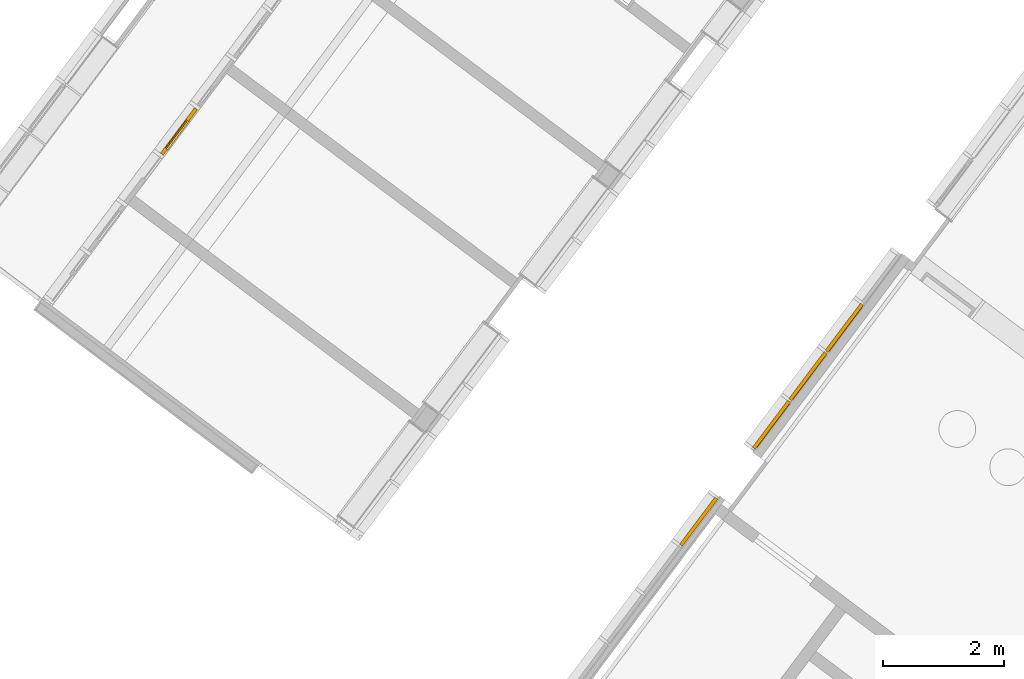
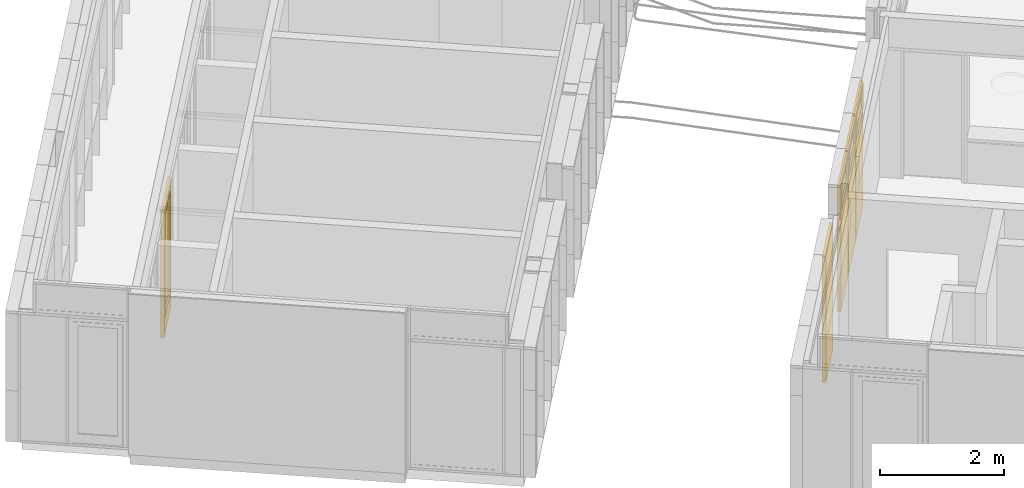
# One storey, part 159 of 243: 5 doors, 3 windows, 2 elements without a shape of their own.
"""IFC2X3 building model written with IfcOpenShell, lengths in metres."""

from ifc_helpers import new_model, entity, si_unit, converted_unit, derived_unit, direction, frame, origin, origin_2d_with_axis, place, context, subcontext, project, spatial, rectangle, extrude, faceted_brep, source, transform, mapped, material, material_list, type_object, type_shapes, element, aggregate, save


model = new_model("IFC2X3")

# Units and contexts
model_context = context("Model", 3, precision=1e-05, world=origin(), true_north=direction((6.123031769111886e-17, 1.0)))
body_context = subcontext(model_context, "Body", "Model", "MODEL_VIEW")
ifc_project = project(units=[si_unit("LENGTHUNIT", "METRE"), si_unit("AREAUNIT", "SQUARE_METRE"), si_unit("VOLUMEUNIT", "CUBIC_METRE"), converted_unit("PLANEANGLEUNIT", "DEGREE", entity("IfcRatioMeasure", 0.017453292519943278), si_unit("PLANEANGLEUNIT", "RADIAN"), dimensions=[0, 0, 0, 0, 0, 0, 0]), si_unit("MASSUNIT", "GRAM", prefix="KILO"), derived_unit("MASSDENSITYUNIT", [(si_unit("MASSUNIT", "GRAM", prefix="KILO"), 1), (si_unit("LENGTHUNIT", "METRE"), -3)]), derived_unit("IONCONCENTRATIONUNIT", [(si_unit("MASSUNIT", "GRAM", prefix="KILO"), 1), (si_unit("LENGTHUNIT", "METRE"), -3)]), derived_unit("MOMENTOFINERTIAUNIT", [(si_unit("LENGTHUNIT", "METRE"), 4)]), si_unit("TIMEUNIT", "SECOND"), si_unit("FREQUENCYUNIT", "HERTZ"), si_unit("THERMODYNAMICTEMPERATUREUNIT", "DEGREE_CELSIUS"), derived_unit("THERMALTRANSMITTANCEUNIT", [(si_unit("MASSUNIT", "GRAM", prefix="KILO"), 1), (si_unit("THERMODYNAMICTEMPERATUREUNIT", "KELVIN"), -1), (si_unit("TIMEUNIT", "SECOND"), -3)]), derived_unit("THERMALCONDUCTANCEUNIT", [(si_unit("MASSUNIT", "GRAM", prefix="KILO"), 1), (si_unit("THERMODYNAMICTEMPERATUREUNIT", "KELVIN"), -1), (si_unit("TIMEUNIT", "SECOND"), -3), (si_unit("LENGTHUNIT", "METRE"), 1)]), derived_unit("VOLUMETRICFLOWRATEUNIT", [(si_unit("LENGTHUNIT", "METRE"), 3), (si_unit("TIMEUNIT", "SECOND"), -1)]), derived_unit("MASSFLOWRATEUNIT", [(si_unit("MASSUNIT", "GRAM", prefix="KILO"), 1), (si_unit("TIMEUNIT", "SECOND"), -1)]), derived_unit("ROTATIONALFREQUENCYUNIT", [(si_unit("TIMEUNIT", "SECOND"), -1)]), si_unit("ELECTRICCURRENTUNIT", "AMPERE"), si_unit("ELECTRICVOLTAGEUNIT", "VOLT"), si_unit("POWERUNIT", "WATT"), si_unit("FORCEUNIT", "NEWTON", prefix="KILO"), si_unit("ILLUMINANCEUNIT", "LUX"), si_unit("LUMINOUSFLUXUNIT", "LUMEN"), si_unit("LUMINOUSINTENSITYUNIT", "CANDELA"), derived_unit("USERDEFINED", [(si_unit("MASSUNIT", "GRAM", prefix="KILO"), -1), (si_unit("LENGTHUNIT", "METRE"), -2), (si_unit("TIMEUNIT", "SECOND"), 3), (si_unit("LUMINOUSFLUXUNIT", "LUMEN"), 1)]), derived_unit("USERDEFINED", [(si_unit("MASSUNIT", "GRAM", prefix="KILO"), 1), (si_unit("TIMEUNIT", "SECOND"), -3), (si_unit("LENGTHUNIT", "METRE"), 3), (si_unit("ELECTRICCURRENTUNIT", "AMPERE"), -2)]), derived_unit("SOUNDPOWERUNIT", [(si_unit("MASSUNIT", "GRAM", prefix="KILO"), 1), (si_unit("TIMEUNIT", "SECOND"), -3), (si_unit("LENGTHUNIT", "METRE"), 2)]), derived_unit("SOUNDPRESSUREUNIT", [(si_unit("MASSUNIT", "GRAM", prefix="KILO"), 1), (si_unit("LENGTHUNIT", "METRE"), -1), (si_unit("TIMEUNIT", "SECOND"), -2)]), derived_unit("LINEARVELOCITYUNIT", [(si_unit("LENGTHUNIT", "METRE"), 1), (si_unit("TIMEUNIT", "SECOND"), -1)]), si_unit("PRESSUREUNIT", "PASCAL"), derived_unit("USERDEFINED", [(si_unit("MASSUNIT", "GRAM", prefix="KILO"), 1), (si_unit("LENGTHUNIT", "METRE"), -2), (si_unit("TIMEUNIT", "SECOND"), -2)]), derived_unit("LINEARFORCEUNIT", [(si_unit("MASSUNIT", "GRAM", prefix="KILO"), 1), (si_unit("TIMEUNIT", "SECOND"), -2)]), derived_unit("PLANARFORCEUNIT", [(si_unit("MASSUNIT", "GRAM", prefix="KILO"), 1), (si_unit("LENGTHUNIT", "METRE"), -1), (si_unit("TIMEUNIT", "SECOND"), -2)]), derived_unit("SPECIFICHEATCAPACITYUNIT", [(si_unit("THERMODYNAMICTEMPERATUREUNIT", "KELVIN"), -1), (si_unit("LENGTHUNIT", "METRE"), 2), (si_unit("TIMEUNIT", "SECOND"), -2)]), derived_unit("HEATINGVALUEUNIT", [(si_unit("LENGTHUNIT", "METRE"), 2), (si_unit("TIMEUNIT", "SECOND"), -2)]), derived_unit("VAPORPERMEABILITYUNIT", [(si_unit("LENGTHUNIT", "METRE"), -1), (si_unit("TIMEUNIT", "SECOND"), 1)]), derived_unit("DYNAMICVISCOSITYUNIT", [(si_unit("MASSUNIT", "GRAM", prefix="KILO"), 1), (si_unit("TIMEUNIT", "SECOND"), -1), (si_unit("LENGTHUNIT", "METRE"), -1)]), derived_unit("THERMALEXPANSIONCOEFFICIENTUNIT", [(si_unit("THERMODYNAMICTEMPERATUREUNIT", "KELVIN"), -1)]), derived_unit("MODULUSOFELASTICITYUNIT", [(si_unit("MASSUNIT", "GRAM", prefix="KILO"), 1), (si_unit("LENGTHUNIT", "METRE"), -1), (si_unit("TIMEUNIT", "SECOND"), -2)]), derived_unit("ISOTHERMALMOISTURECAPACITYUNIT", [(si_unit("LENGTHUNIT", "METRE"), 3), (si_unit("MASSUNIT", "GRAM", prefix="KILO"), -1)]), derived_unit("MOISTUREDIFFUSIVITYUNIT", [(si_unit("TIMEUNIT", "SECOND"), -1), (si_unit("LENGTHUNIT", "METRE"), 2)])], contexts=[model_context])

# Site, building, storey
site_placement = place(None, frame((0.0, 0.0, 235.0), z_axis=(0.0, 0.0, 1.0), x_axis=(-0.7996477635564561, 0.6004693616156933, 0.0)))
site = spatial("IfcSite", under=ifc_project, at=site_placement, Name="Default", CompositionType="ELEMENT")
building_placement = place(site_placement, origin())
building = spatial("IfcBuilding", under=site, at=building_placement, CompositionType="ELEMENT")
storey_placement = place(building_placement, origin())
storey = spatial("IfcBuildingStorey", under=building, at=storey_placement, Name="P0- Escola", CompositionType="ELEMENT", Elevation=0.0)

# Curtain wall, door
curtain_wall_type_1 = type_object("IfcCurtainWallType", Name="Muro cortina:MC- INT- a2", PredefinedType="NOTDEFINED")
curtain_wall_1_placement = place(storey_placement, origin())
curtain_wall_1 = element("IfcCurtainWall", 1, at=curtain_wall_1_placement, inside=storey, type_object=curtain_wall_type_1, Name="Muro cortina:MC- INT- a2", ObjectType="Muro cortina:MC- INT- a2")
ifc_material_1 = material(Name="_Fusta massisa- T1")
ifc_material_2 = material(Name="_Vidre")
ifc_material_list_1 = material_list([ifc_material_1, ifc_material_2])
door_style_1 = type_object("IfcDoorStyle", Name="MC- Fusta- conjunt porta:MC- Fusta- conjunt Porta aules", ConstructionType="NOTDEFINED", OperationType="NOTDEFINED", ParameterTakesPrecedence=False, Sizeable=False, material=ifc_material_list_1)
shared_shape_1 = source(origin(), body_context, "Body", "Brep", [
    faceted_brep([(0.24500000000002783, -0.024999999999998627, 2.3799999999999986), (0.24500000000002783, -0.024999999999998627, 0.3299999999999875), (0.24500000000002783, 0.0050000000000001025, 0.3299999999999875), (0.24500000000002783, 0.0050000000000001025, 2.3799999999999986), (-0.3700000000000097, -0.024999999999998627, 0.3299999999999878), (-0.3700000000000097, 0.0050000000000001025, 0.3299999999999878), (-0.37000000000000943, -0.024999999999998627, 2.3799999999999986), (-0.37000000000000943, 0.0050000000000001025, 2.3799999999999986), (0.23000000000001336, 0.0050000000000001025, 2.3650000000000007), (-0.35499999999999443, 0.0050000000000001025, 2.3650000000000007), (-0.35499999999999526, 0.0050000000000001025, 0.3449999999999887), (0.23000000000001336, 0.0050000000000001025, 0.34499999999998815), (0.23000000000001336, -0.024999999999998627, 2.3650000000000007), (0.23000000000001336, -0.024999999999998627, 0.34499999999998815), (-0.35499999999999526, -0.024999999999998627, 0.3449999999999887), (-0.35499999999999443, -0.024999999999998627, 2.3650000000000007)], [[[0, 1, 2, 3]], [[1, 4, 5, 2]], [[4, 6, 7, 5]], [[8, 9, 10, 11], [3, 2, 5, 7]], [[12, 13, 14, 15], [0, 6, 4, 1]], [[13, 12, 8, 11]], [[14, 13, 11, 10]], [[15, 14, 10, 9]], [[6, 0, 3, 7]], [[12, 15, 9, 8]]], outer=[[True], [True], [True], [False, True], [False, True], [True], [True], [True], [True], [True]]),
    faceted_brep([(0.43999999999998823, 0.03999999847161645, 0.0), (0.43999999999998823, 0.0099999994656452, 0.0), (0.4550000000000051, 0.0099999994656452, 0.0), (0.4550000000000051, -0.01999999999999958, 0.0), (-0.45499999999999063, -0.019999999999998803, 0.0), (-0.45499999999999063, 0.009999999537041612, 0.0), (-0.43999999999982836, 0.009999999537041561, 0.0), (-0.43999999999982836, 0.039999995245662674, 0.0), (0.45500000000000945, -0.01999999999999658, 2.4899999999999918), (-0.45499999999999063, -0.019999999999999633, 2.4899999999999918), (0.24500000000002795, -0.019999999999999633, 0.3300000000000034), (-0.37000000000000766, -0.019999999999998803, 0.3300000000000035), (-0.37000000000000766, -0.01999999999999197, 2.3799999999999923), (0.24500000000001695, -0.019999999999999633, 2.3799999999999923), (0.45500000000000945, 0.0099999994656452, 2.4899999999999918), (-0.45499999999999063, 0.0099999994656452, 2.4899999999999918), (0.43999999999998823, 0.03999999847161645, 2.4749999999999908), (0.43999999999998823, 0.0099999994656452, 2.4749999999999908), (-0.43999999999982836, 0.0099999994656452, 2.4749999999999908), (-0.43999999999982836, 0.039999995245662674, 2.4749999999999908), (-0.3549999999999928, 0.03999999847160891, 0.3450000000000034), (0.2300000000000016, 0.03999999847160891, 0.3450000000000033), (0.2300000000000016, 0.03999999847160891, 2.364999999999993), (-0.3549999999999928, 0.03999999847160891, 2.364999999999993), (-0.3549999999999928, 0.025000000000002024, 0.3450000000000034), (0.2300000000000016, 0.025000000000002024, 0.3450000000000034), (0.2300000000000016, 0.024999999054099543, 2.364999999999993), (-0.3549999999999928, 0.03999999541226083, 2.364999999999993), (-0.3549999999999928, 0.024999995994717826, 2.364999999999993), (0.2300000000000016, 0.025000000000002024, 2.364999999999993), (-0.37000000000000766, 0.025000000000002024, 0.3300000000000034), (0.24500000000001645, 0.025000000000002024, 0.3300000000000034), (0.24500000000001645, 0.025000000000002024, 2.3799999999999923), (-0.37000000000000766, 0.025000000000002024, 2.3799999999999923), (0.24500000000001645, 0.024999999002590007, 0.3300000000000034), (-0.37000000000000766, 0.02499999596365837, 2.3799999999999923), (0.24500000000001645, 0.024999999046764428, 2.3799999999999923)], [[[0, 1, 2, 3, 4, 5, 6, 7]], [[8, 9, 4, 3], [10, 11, 12, 13]], [[8, 3, 2, 14]], [[15, 5, 4, 9]], [[16, 17, 1, 0]], [[14, 2, 1, 17, 18, 6, 5, 15]], [[18, 19, 7, 6]], [[16, 0, 7, 19], [20, 21, 22, 23]], [[21, 20, 24, 25]], [[21, 25, 26, 22]], [[24, 20, 27, 28]], [[25, 24, 28, 29], [30, 31, 32, 33]], [[11, 10, 31, 30]], [[34, 10, 13, 32]], [[11, 30, 35, 12]], [[9, 8, 14, 15]], [[17, 16, 19, 18]], [[23, 22, 29, 28]], [[13, 12, 33, 36]]], outer=[[True], [True, False], [True], [True], [True], [True], [True], [True, False], [True], [True], [True], [False, True], [True], [True], [True], [True], [True], [True], [True]]),
    faceted_brep([(-0.37000000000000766, 0.024999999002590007, 0.3300000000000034), (0.2450000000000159, 0.024999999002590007, 0.3300000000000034), (0.2450000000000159, 0.0050000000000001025, 0.3300000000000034), (-0.37000000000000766, 0.0050000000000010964, 0.3300000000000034), (-0.37000000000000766, 0.024999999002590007, 2.380000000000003), (0.2450000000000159, 0.024999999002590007, 2.380000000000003), (0.2450000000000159, 0.0050000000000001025, 2.380000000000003), (-0.37000000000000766, 0.0050000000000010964, 2.380000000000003)], [[[0, 1, 2, 3]], [[4, 5, 1, 0]], [[5, 6, 2, 1]], [[6, 7, 3, 2]], [[7, 4, 0, 3]], [[4, 7, 6, 5]]]),
    faceted_brep([(0.46500000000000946, -0.01999999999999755, 0.0), (0.4550000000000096, -0.01999999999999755, 0.0), (0.4550000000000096, 0.010000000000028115, 0.0), (0.44000000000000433, 0.010000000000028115, 0.0), (0.44000000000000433, 0.0400000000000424, 0.0), (0.46500000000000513, 0.0400000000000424, 0.0), (0.46500000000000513, 0.03600000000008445, 0.0), (0.469999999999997, 0.03600000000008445, 0.0), (0.469999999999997, -0.015999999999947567, 0.0), (0.46500000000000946, -0.015999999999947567, 0.0), (0.46500000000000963, -0.01999999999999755, 2.5000000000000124), (-0.46500000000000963, -0.01999999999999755, 2.5000000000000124), (-0.46500000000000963, -0.01999999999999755, 0.0), (-0.45500000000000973, -0.01999999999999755, 0.0), (-0.45500000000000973, -0.01999999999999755, 2.4900000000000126), (0.4550000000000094, -0.01999999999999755, 2.490000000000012), (0.4550000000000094, 0.010000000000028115, 2.490000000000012), (-0.45500000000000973, 0.010000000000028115, 2.4900000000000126), (-0.45500000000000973, 0.010000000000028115, 0.0), (-0.4400000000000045, 0.010000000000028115, 0.0), (-0.4400000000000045, 0.010000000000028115, 2.4750000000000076), (0.4400000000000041, 0.010000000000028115, 2.4750000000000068), (0.4400000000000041, 0.0400000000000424, 2.4750000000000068), (-0.4400000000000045, 0.0400000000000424, 2.4750000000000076), (-0.4400000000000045, 0.0400000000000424, 0.0), (-0.4650000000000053, 0.0400000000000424, 0.0), (-0.4650000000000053, 0.0400000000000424, 2.5000000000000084), (0.46500000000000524, 0.0400000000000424, 2.5000000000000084), (0.46500000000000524, 0.03600000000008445, 2.5000000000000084), (-0.4650000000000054, 0.03600000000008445, 2.5000000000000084), (-0.4650000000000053, 0.03600000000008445, 0.0), (-0.4699999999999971, 0.03600000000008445, 0.0), (-0.4699999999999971, 0.03600000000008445, 2.5050000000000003), (0.46999999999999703, 0.03600000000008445, 2.5050000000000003), (0.46999999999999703, -0.015999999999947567, 2.5050000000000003), (-0.46999999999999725, -0.015999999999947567, 2.5050000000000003), (-0.4699999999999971, -0.015999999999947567, 0.0), (-0.46500000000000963, -0.015999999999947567, 0.0), (-0.46500000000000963, -0.015999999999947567, 2.5000000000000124), (0.4650000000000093, -0.015999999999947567, 2.500000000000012)], [[[0, 1, 2, 3, 4, 5, 6, 7, 8, 9]], [[1, 0, 10, 11, 12, 13, 14, 15]], [[2, 1, 15, 16]], [[3, 2, 16, 17, 18, 19, 20, 21]], [[4, 3, 21, 22]], [[5, 4, 22, 23, 24, 25, 26, 27]], [[6, 5, 27, 28]], [[7, 6, 28, 29, 30, 31, 32, 33]], [[8, 7, 33, 34]], [[9, 8, 34, 35, 36, 37, 38, 39]], [[0, 9, 39, 10]], [[11, 38, 37, 12]], [[12, 37, 36, 31, 30, 25, 24, 19, 18, 13]], [[17, 14, 13, 18]], [[23, 20, 19, 24]], [[29, 26, 25, 30]], [[35, 32, 31, 36]], [[16, 15, 14, 17]], [[22, 21, 20, 23]], [[28, 27, 26, 29]], [[34, 33, 32, 35]], [[10, 39, 38, 11]]]),
])
type_shapes(door_style_1, [shared_shape_1])
door_1_placement = place(curtain_wall_1_placement, frame((34.62014768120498, -23.915191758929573, 0.0), z_axis=(0.0, 0.0, 1.0), x_axis=(0.0, -1.0, 0.0)))
door_1 = element("IfcDoor", 2, at=door_1_placement, type_object=door_style_1, material=ifc_material_list_1, Name="MC- Fusta- conjunt porta:MC- Fusta- conjunt Porta aules", ObjectType="MC- Fusta- conjunt porta:MC- Fusta- conjunt Porta aules", OverallHeight=2.5050000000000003, OverallWidth=0.9399999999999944, context=body_context, shape_type="MappedRepresentation", body=[
    mapped(shared_shape_1, transform((0.0, 0.0, 0.0), scale=1.0)),
])
aggregate(curtain_wall_1, [door_1])

# Curtain wall, doors, windows
curtain_wall_type_2 = type_object("IfcCurtainWallType", Name="Muro cortina:MC- EXT- MC2", PredefinedType="NOTDEFINED")
curtain_wall_2_placement = place(storey_placement, origin())
curtain_wall_2 = element("IfcCurtainWall", 3, at=curtain_wall_2_placement, inside=storey, type_object=curtain_wall_type_2, Name="Muro cortina:MC- EXT- MC2", ObjectType="Muro cortina:MC- EXT- MC2")
ifc_material_3 = material(Name="_Alumini- T1- Perfil")
ifc_material_4 = material(Name="_Aillament")
ifc_material_list_2 = material_list([ifc_material_3, ifc_material_4])
door_style_2 = type_object("IfcDoorStyle", Name="MC- Alu- panell especific xapa:MC- Alu- panell especific xapa", ConstructionType="NOTDEFINED", OperationType="NOTDEFINED", ParameterTakesPrecedence=False, Sizeable=False, material=ifc_material_list_2)
shared_shape_2 = source(origin(), body_context, "Body", "SweptSolid", [
    extrude(rectangle(XDim=0.9699999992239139, YDim=0.005999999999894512, at=origin_2d_with_axis()), frame((0.0, -0.057000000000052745, 0.0), z_axis=(0.0, 0.0, 1.0), x_axis=(-1.0, 0.0, 0.0)), (0.0, 0.0, 1.0), 2.471449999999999),
    extrude(rectangle(XDim=0.048000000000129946, YDim=0.9699999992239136, at=origin_2d_with_axis()), frame((0.0, -0.030000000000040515, 0.0), z_axis=(0.0, 0.0, 1.0), x_axis=(0.0, 1.0, 0.0)), (0.0, 0.0, 1.0), 2.471449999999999),
    extrude(rectangle(XDim=0.9699999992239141, YDim=0.005999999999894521, at=origin_2d_with_axis()), frame((0.0, -0.003000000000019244, 0.0), z_axis=(0.0, 0.0, 1.0), x_axis=(-1.0, 0.0, 0.0)), (0.0, 0.0, 1.0), 2.471449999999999),
])
type_shapes(door_style_2, [shared_shape_2])
door_2_placement = place(curtain_wall_2_placement, frame((23.945147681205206, -23.915191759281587, 0.03229999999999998), z_axis=(0.0, 0.0, 1.0), x_axis=(0.0, -1.0, 0.0)))
door_2 = element("IfcDoor", 4, at=door_2_placement, type_object=door_style_2, material=ifc_material_list_2, Name="MC- Alu- panell especific xapa:MC- Alu- panell especific xapa", ObjectType="MC- Alu- panell especific xapa:MC- Alu- panell especific xapa", OverallHeight=2.471449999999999, OverallWidth=0.9699999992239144, context=body_context, shape_type="MappedRepresentation", body=[
    mapped(shared_shape_2, transform((0.0, 0.0, 0.0), scale=1.0)),
])
door_style_3 = type_object("IfcDoorStyle", Name="MC- Alu- panell especific xapa:MC- Alu- panell especific xapa", ConstructionType="NOTDEFINED", OperationType="NOTDEFINED", ParameterTakesPrecedence=False, Sizeable=False, material=ifc_material_list_2)
shared_shape_3 = source(origin(), body_context, "Body", "SweptSolid", [
    extrude(rectangle(XDim=0.005999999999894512, YDim=0.9699999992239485, at=origin_2d_with_axis()), frame((0.0, -0.057000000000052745, 0.0), z_axis=(0.0, 0.0, 1.0), x_axis=(0.0, -1.0, 0.0)), (0.0, 0.0, 1.0), 1.9226999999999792),
    extrude(rectangle(XDim=0.9699999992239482, YDim=0.048000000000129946, at=origin_2d_with_axis()), frame((0.0, -0.030000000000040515, 0.0)), (0.0, 0.0, 1.0), 1.9226999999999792),
    extrude(rectangle(XDim=0.005999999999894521, YDim=0.9699999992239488, at=origin_2d_with_axis()), frame((0.0, -0.003000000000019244, 0.0), z_axis=(0.0, 0.0, 1.0), x_axis=(0.0, -1.0, 0.0)), (0.0, 0.0, 1.0), 1.9226999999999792),
])
type_shapes(door_style_3, [shared_shape_3])
door_3_placement = place(curtain_wall_2_placement, frame((23.94514768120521, -25.915191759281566, 0.03229999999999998), z_axis=(0.0, 0.0, 1.0), x_axis=(0.0, -1.0, 0.0)))
door_3 = element("IfcDoor", 5, at=door_3_placement, type_object=door_style_3, material=ifc_material_list_2, Name="MC- Alu- panell especific xapa:MC- Alu- panell especific xapa", ObjectType="MC- Alu- panell especific xapa:MC- Alu- panell especific xapa", OverallHeight=1.9226999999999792, OverallWidth=0.9699999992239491, context=body_context, shape_type="MappedRepresentation", body=[
    mapped(shared_shape_3, transform((0.0, 0.0, 0.0), scale=1.0)),
])
door_style_4 = type_object("IfcDoorStyle", Name="MC- Alu- panell especific xapa:MC- Alu- panell especific xapa", ConstructionType="NOTDEFINED", OperationType="NOTDEFINED", ParameterTakesPrecedence=False, Sizeable=False, material=ifc_material_list_2)
shared_shape_4 = source(origin(), body_context, "Body", "SweptSolid", [
    extrude(rectangle(XDim=0.9699999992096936, YDim=0.005999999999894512, at=origin_2d_with_axis()), frame((0.0, -0.057000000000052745, 0.0), z_axis=(0.0, 0.0, 1.0), x_axis=(-1.0, 0.0, 0.0)), (0.0, 0.0, 1.0), 1.9226999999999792),
    extrude(rectangle(XDim=0.048000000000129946, YDim=0.9699999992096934, at=origin_2d_with_axis()), frame((0.0, -0.030000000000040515, 0.0), z_axis=(0.0, 0.0, 1.0), x_axis=(0.0, 1.0, 0.0)), (0.0, 0.0, 1.0), 1.9226999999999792),
    extrude(rectangle(XDim=0.9699999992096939, YDim=0.005999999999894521, at=origin_2d_with_axis()), frame((0.0, -0.003000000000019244, 0.0), z_axis=(0.0, 0.0, 1.0), x_axis=(-1.0, 0.0, 0.0)), (0.0, 0.0, 1.0), 1.9226999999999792),
])
type_shapes(door_style_4, [shared_shape_4])
door_4_placement = place(curtain_wall_2_placement, frame((23.94514768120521, -26.91519175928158, 0.03229999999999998), z_axis=(0.0, 0.0, 1.0), x_axis=(0.0, -1.0, 0.0)))
door_4 = element("IfcDoor", 6, at=door_4_placement, type_object=door_style_4, material=ifc_material_list_2, Name="MC- Alu- panell especific xapa:MC- Alu- panell especific xapa", ObjectType="MC- Alu- panell especific xapa:MC- Alu- panell especific xapa", OverallHeight=1.9226999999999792, OverallWidth=0.9699999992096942, context=body_context, shape_type="MappedRepresentation", body=[
    mapped(shared_shape_4, transform((0.0, 0.0, 0.0), scale=1.0)),
])
door_5_placement = place(curtain_wall_2_placement, frame((23.945147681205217, -27.91519175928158, 0.03229999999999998), z_axis=(0.0, 0.0, 1.0), x_axis=(0.0, -1.0, 0.0)))
door_5 = element("IfcDoor", 7, at=door_5_placement, type_object=door_style_4, material=ifc_material_list_2, Name="MC- Alu- panell especific xapa:MC- Alu- panell especific xapa", ObjectType="MC- Alu- panell especific xapa:MC- Alu- panell especific xapa", OverallHeight=1.9226999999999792, OverallWidth=0.9699999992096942, context=body_context, shape_type="MappedRepresentation", body=[
    mapped(shared_shape_4, transform((0.0, 0.0, 0.0), scale=1.0)),
])
ifc_material_list_3 = material_list([ifc_material_2, ifc_material_3])
window_style = type_object("IfcWindowStyle", Name="MC- Alu- Conjunt finestra basculant- 68x68 cm:MC- Alu- Conjunt finestra basculant- 68x68 cm", ConstructionType="NOTDEFINED", OperationType="NOTDEFINED", ParameterTakesPrecedence=False, Sizeable=False, material=ifc_material_list_3)
shared_shape_5 = source(origin(), body_context, "Body", "Brep", [
    faceted_brep([(-0.4329117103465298, -0.03559830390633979, 0.051999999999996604), (-0.4329117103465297, -0.011598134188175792, 0.051999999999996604), (0.43291171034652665, -0.011598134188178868, 0.051999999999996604), (0.4329117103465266, -0.03559830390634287, 0.051999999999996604), (-0.4329117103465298, -0.03559830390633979, 0.49655278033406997), (-0.43291171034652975, -0.011598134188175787, 0.49655278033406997), (0.43291171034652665, -0.011598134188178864, 0.49655278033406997), (0.4329117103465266, -0.03559830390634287, 0.49655278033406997)], [[[0, 1, 2, 3]], [[4, 5, 1, 0]], [[5, 6, 2, 1]], [[6, 7, 3, 2]], [[7, 4, 0, 3]], [[4, 7, 6, 5]]]),
    faceted_brep([(0.4172108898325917, -0.009998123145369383, 0.48085195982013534), (0.4172108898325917, -0.007998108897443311, 0.4808519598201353), (0.4172108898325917, -0.007998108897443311, 0.06789804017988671), (0.4172108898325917, -0.009998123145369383, 0.06789804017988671), (0.4461089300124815, -0.007998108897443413, 0.509750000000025), (0.4461089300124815, -0.007998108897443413, 0.03899999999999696), (-0.4461089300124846, -0.007998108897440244, 0.03899999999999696), (-0.4461089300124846, -0.007998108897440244, 0.509750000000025), (-0.4172108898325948, -0.007998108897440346, 0.4808519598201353), (-0.4172108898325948, -0.007998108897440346, 0.06789804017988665), (-0.4172108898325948, -0.009998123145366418, 0.06789804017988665), (-0.4172108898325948, -0.009998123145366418, 0.4808519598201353), (-0.43291171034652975, -0.00999812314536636, 0.49655278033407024), (-0.43291171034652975, -0.009998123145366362, 0.05219721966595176), (0.43291171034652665, -0.009998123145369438, 0.052197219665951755), (0.43291171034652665, -0.009998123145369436, 0.49655278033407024), (0.43291171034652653, -0.04079986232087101, 0.49655278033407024), (0.43291171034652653, -0.04079986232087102, 0.052197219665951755), (-0.4329117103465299, -0.04079986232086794, 0.05219721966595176), (-0.4329117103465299, -0.04079986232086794, 0.49655278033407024), (-0.41721088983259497, -0.040799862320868, 0.4808519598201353), (-0.41721088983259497, -0.040799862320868, 0.06789804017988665), (0.4172108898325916, -0.04079986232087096, 0.06789804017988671), (0.4172108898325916, -0.04079986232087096, 0.48085195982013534), (0.4172108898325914, -0.06800005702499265, 0.48085195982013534), (0.4172108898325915, -0.06800005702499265, 0.06789804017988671), (-0.417210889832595, -0.0680000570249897, 0.06789804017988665), (-0.417210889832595, -0.0680000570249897, 0.4808519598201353), (-0.46361289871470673, -0.06800005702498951, 0.527253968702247), (-0.46361289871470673, -0.06800005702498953, 0.021496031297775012), (0.4636128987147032, -0.06800005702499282, 0.021496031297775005), (0.4636128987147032, -0.06800005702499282, 0.527253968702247), (0.4636128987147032, -0.0645000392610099, 0.527253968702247), (0.4636128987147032, -0.0645000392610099, 0.021496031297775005), (-0.46361289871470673, -0.06450003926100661, 0.021496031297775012), (-0.46361289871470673, -0.06450003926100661, 0.527253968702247), (-0.44610893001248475, -0.06450003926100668, 0.509750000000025), (-0.4461089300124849, -0.06450003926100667, 0.0389999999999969), (0.44610893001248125, -0.06450003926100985, 0.038999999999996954), (0.44610893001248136, -0.06450003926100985, 0.5097500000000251)], [[[0, 1, 2, 3]], [[4, 5, 6, 7], [8, 9, 2, 1]], [[3, 2, 9, 10]], [[0, 3, 10, 11], [12, 13, 14, 15]], [[16, 15, 14, 17]], [[17, 14, 13, 18]], [[16, 17, 18, 19], [20, 21, 22, 23]], [[24, 23, 22, 25]], [[25, 22, 21, 26]], [[24, 25, 26, 27], [28, 29, 30, 31]], [[32, 31, 30, 33]], [[33, 30, 29, 34]], [[32, 33, 34, 35], [36, 37, 38, 39]], [[4, 39, 38, 5]], [[5, 38, 37, 6]], [[10, 9, 8, 11]], [[18, 13, 12, 19]], [[26, 21, 20, 27]], [[34, 29, 28, 35]], [[6, 37, 36, 7]], [[11, 8, 1, 0]], [[19, 12, 15, 16]], [[27, 20, 23, 24]], [[35, 28, 31, 32]], [[7, 36, 39, 4]]], outer=[[True], [True, False], [True], [False, True], [True], [True], [True, False], [True], [True], [False, True], [True], [True], [True, False], [True], [True], [True], [True], [True], [True], [True], [True], [True], [True], [True], [True]]),
    faceted_brep([(-0.42219318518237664, 0.0, 0.4859431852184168), (-0.42219318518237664, -0.0040000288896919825, 0.4859431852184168), (-0.42219318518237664, -0.0040000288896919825, 0.06280681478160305), (-0.42219318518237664, 0.0, 0.06280681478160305), (-0.45759980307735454, -0.0040000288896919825, 0.5213498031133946), (-0.45759980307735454, -0.0040000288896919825, 0.027400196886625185), (0.45759980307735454, -0.0040000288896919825, 0.027400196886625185), (0.45759980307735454, -0.0040000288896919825, 0.5213498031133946), (0.42219318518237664, -0.0040000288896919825, 0.4859431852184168), (0.42219318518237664, -0.0040000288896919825, 0.06280681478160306), (0.42219318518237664, 0.0, 0.06280681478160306), (0.42219318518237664, 0.0, 0.4859431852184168), (0.4849999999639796, 0.0, 0.5487500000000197), (0.4849999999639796, 0.0, 0.0), (-0.4849999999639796, 0.0, 0.0), (-0.4849999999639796, 0.0, 0.5487500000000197), (-0.4849999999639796, -0.05999999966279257, 0.5487500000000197), (-0.4849999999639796, -0.05999999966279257, 0.0), (0.4849999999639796, -0.05999999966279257, 0.0), (0.4849999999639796, -0.05999999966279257, 0.5487500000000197), (0.45759980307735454, -0.05999999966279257, 0.5213498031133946), (0.45759980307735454, -0.05999999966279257, 0.027400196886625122), (-0.45759980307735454, -0.05999999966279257, 0.02740019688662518), (-0.45759980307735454, -0.05999999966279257, 0.5213498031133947)], [[[0, 1, 2, 3]], [[4, 5, 6, 7], [8, 9, 2, 1]], [[3, 2, 9, 10]], [[0, 3, 10, 11], [12, 13, 14, 15]], [[16, 15, 14, 17]], [[17, 14, 13, 18]], [[16, 17, 18, 19], [20, 21, 22, 23]], [[4, 23, 22, 5]], [[5, 22, 21, 6]], [[10, 9, 8, 11]], [[18, 13, 12, 19]], [[6, 21, 20, 7]], [[11, 8, 1, 0]], [[19, 12, 15, 16]], [[7, 20, 23, 4]]], outer=[[True], [True, False], [True], [False, True], [True], [True], [True, False], [True], [True], [True], [True], [True], [True], [True], [True]]),
])
type_shapes(window_style, [shared_shape_5])
window_1_placement = place(curtain_wall_2_placement, frame((23.94514768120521, -25.915191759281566, 1.9549999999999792), z_axis=(0.0, 0.0, 1.0), x_axis=(0.0, -1.0, 0.0)))
window_1 = element("IfcWindow", 8, at=window_1_placement, type_object=window_style, material=ifc_material_list_3, Name="MC- Alu- Conjunt finestra basculant- 68x68 cm:MC- Alu- Conjunt finestra basculant- 68x68 cm", ObjectType="MC- Alu- Conjunt finestra basculant- 68x68 cm:MC- Alu- Conjunt finestra basculant- 68x68 cm", OverallHeight=0.5487500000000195, OverallWidth=0.9699999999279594, context=body_context, shape_type="MappedRepresentation", body=[
    mapped(shared_shape_5, transform((0.0, 0.0, 0.0), scale=1.0)),
])
window_2_placement = place(curtain_wall_2_placement, frame((23.94514768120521, -26.91519175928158, 1.9549999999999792), z_axis=(0.0, 0.0, 1.0), x_axis=(0.0, -1.0, 0.0)))
window_2 = element("IfcWindow", 9, at=window_2_placement, type_object=window_style, material=ifc_material_list_3, Name="MC- Alu- Conjunt finestra basculant- 68x68 cm:MC- Alu- Conjunt finestra basculant- 68x68 cm", ObjectType="MC- Alu- Conjunt finestra basculant- 68x68 cm:MC- Alu- Conjunt finestra basculant- 68x68 cm", OverallHeight=0.5487500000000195, OverallWidth=0.9699999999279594, context=body_context, shape_type="MappedRepresentation", body=[
    mapped(shared_shape_5, transform((0.0, 0.0, 0.0), scale=1.0)),
])
window_3_placement = place(curtain_wall_2_placement, frame((23.945147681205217, -27.91519175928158, 1.9549999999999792), z_axis=(0.0, 0.0, 1.0), x_axis=(0.0, -1.0, 0.0)))
window_3 = element("IfcWindow", 10, at=window_3_placement, type_object=window_style, material=ifc_material_list_3, Name="MC- Alu- Conjunt finestra basculant- 68x68 cm:MC- Alu- Conjunt finestra basculant- 68x68 cm", ObjectType="MC- Alu- Conjunt finestra basculant- 68x68 cm:MC- Alu- Conjunt finestra basculant- 68x68 cm", OverallHeight=0.5487500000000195, OverallWidth=0.9699999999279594, context=body_context, shape_type="MappedRepresentation", body=[
    mapped(shared_shape_5, transform((0.0, 0.0, 0.0), scale=1.0)),
])
aggregate(curtain_wall_2, [door_2, door_3, door_4, door_5, window_1, window_2, window_3])

save(model, "model.ifc")
